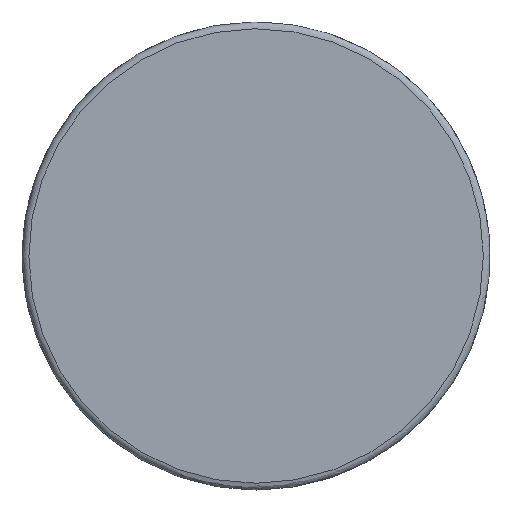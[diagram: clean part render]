
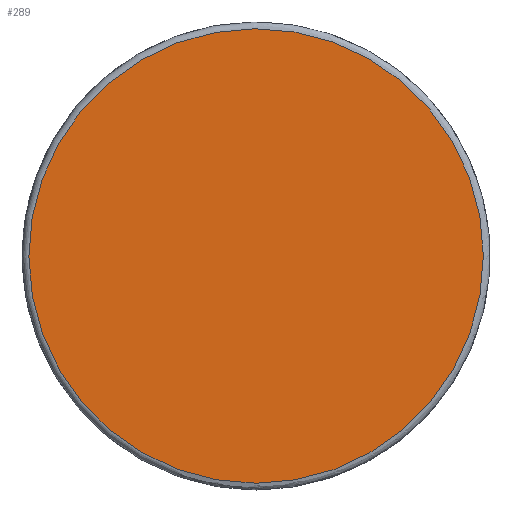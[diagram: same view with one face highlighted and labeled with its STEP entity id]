
A CAD part, left-side view. The second image highlights one B-rep face of the part: STEP entity #289.
In plain terms, the highlighted planar face has unit normal (-1, 0, 0).
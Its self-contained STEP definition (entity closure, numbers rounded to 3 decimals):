
#130=FACE_OUTER_BOUND('',#505,.T.);
#289=ADVANCED_FACE('',(#130),#323,.F.);
#323=PLANE('',#1130);
#505=EDGE_LOOP('',(#731));
#731=ORIENTED_EDGE('',*,*,#946,.F.);
#833=VERTEX_POINT('',#1903);
#946=EDGE_CURVE('',#833,#833,#1007,.T.);
#1007=CIRCLE('',#1129,24.62);
#1129=AXIS2_PLACEMENT_3D('',#1902,#1387,#1388);
#1130=AXIS2_PLACEMENT_3D('',#1904,#1389,#1390);
#1387=DIRECTION('',(1.,0.,0.));
#1388=DIRECTION('',(0.,0.,-1.));
#1389=DIRECTION('',(1.,0.,0.));
#1390=DIRECTION('',(0.,0.,-1.));
#1902=CARTESIAN_POINT('',(0.,0.,0.));
#1903=CARTESIAN_POINT('',(0.,0.,-24.62));
#1904=CARTESIAN_POINT('',(0.,0.,0.));
